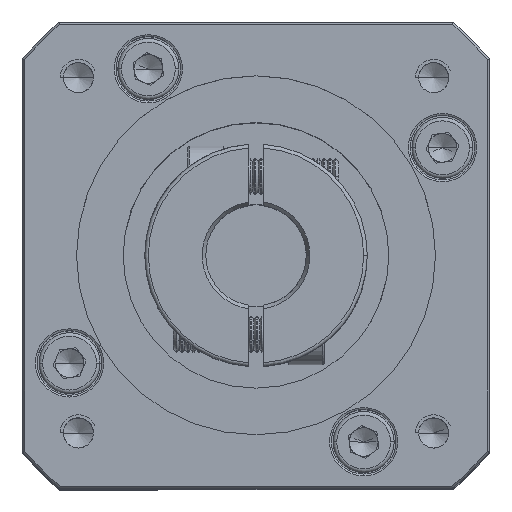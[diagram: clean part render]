
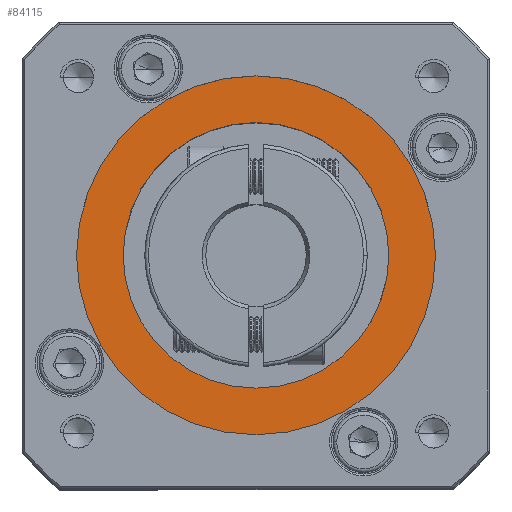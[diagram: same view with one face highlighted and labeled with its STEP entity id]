
A CAD part, top view. The second image highlights one B-rep face of the part: STEP entity #84115.
In plain terms, the highlighted planar face has unit normal (0, 0, 1).
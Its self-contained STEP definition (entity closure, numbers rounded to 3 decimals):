
#5113 = FACE_OUTER_BOUND ( 'NONE', #57799, .T. ) ;
#6997 = CIRCLE ( 'NONE', #34559, 18.5 ) ;
#8098 = EDGE_CURVE ( 'NONE', #102470, #37250, #6997, .T. ) ;
#13736 = CARTESIAN_POINT ( 'NONE',  ( -40.761, 29.91, 0.906 ) ) ;
#14090 = VERTEX_POINT ( 'NONE', #36983 ) ;
#17733 = VERTEX_POINT ( 'NONE', #54439 ) ;
#18972 = CARTESIAN_POINT ( 'NONE',  ( -40.761, 29.91, 0.906 ) ) ;
#22602 = DIRECTION ( 'NONE',  ( 1., 0., 0. ) ) ;
#23038 = CARTESIAN_POINT ( 'NONE',  ( -59.261, 29.91, 0.906 ) ) ;
#30956 = ORIENTED_EDGE ( 'NONE', *, *, #119041, .T. ) ;
#34559 = AXIS2_PLACEMENT_3D ( 'NONE', #103512, #54489, #102687 ) ;
#36070 = CIRCLE ( 'NONE', #71642, 25. ) ;
#36983 = CARTESIAN_POINT ( 'NONE',  ( -65.761, 29.91, 0.906 ) ) ;
#37250 = VERTEX_POINT ( 'NONE', #72403 ) ;
#37949 = EDGE_CURVE ( 'NONE', #14090, #17733, #36070, .T. ) ;
#40283 = AXIS2_PLACEMENT_3D ( 'NONE', #105840, #84513, #104604 ) ;
#48441 = CIRCLE ( 'NONE', #49802, 25. ) ;
#49802 = AXIS2_PLACEMENT_3D ( 'NONE', #18972, #59418, #87113 ) ;
#53520 = EDGE_CURVE ( 'NONE', #37250, #102470, #67989, .T. ) ;
#54439 = CARTESIAN_POINT ( 'NONE',  ( -15.761, 29.91, 0.906 ) ) ;
#54489 = DIRECTION ( 'NONE',  ( 0., 0., -1. ) ) ;
#57799 = EDGE_LOOP ( 'NONE', ( #30956, #106766 ) ) ;
#59418 = DIRECTION ( 'NONE',  ( 0., 0., 1. ) ) ;
#61816 = DIRECTION ( 'NONE',  ( 0., 0., 1. ) ) ;
#63211 = DIRECTION ( 'NONE',  ( 0., 0., 1. ) ) ;
#67989 = CIRCLE ( 'NONE', #40283, 18.5 ) ;
#71642 = AXIS2_PLACEMENT_3D ( 'NONE', #80962, #61816, #22602 ) ;
#72403 = CARTESIAN_POINT ( 'NONE',  ( -22.261, 29.91, 0.906 ) ) ;
#73135 = EDGE_LOOP ( 'NONE', ( #107180, #117429 ) ) ;
#80962 = CARTESIAN_POINT ( 'NONE',  ( -40.761, 29.91, 0.906 ) ) ;
#81489 = PLANE ( 'NONE',  #88643 ) ;
#84115 = ADVANCED_FACE ( 'NONE', ( #5113, #121101 ), #81489, .T. ) ;
#84513 = DIRECTION ( 'NONE',  ( 0., 0., -1. ) ) ;
#87113 = DIRECTION ( 'NONE',  ( 1., 0., 0. ) ) ;
#88643 = AXIS2_PLACEMENT_3D ( 'NONE', #13736, #63211, #92530 ) ;
#92530 = DIRECTION ( 'NONE',  ( 1., 0., 0. ) ) ;
#102470 = VERTEX_POINT ( 'NONE', #23038 ) ;
#102687 = DIRECTION ( 'NONE',  ( 1., 0., 0. ) ) ;
#103512 = CARTESIAN_POINT ( 'NONE',  ( -40.761, 29.91, 0.906 ) ) ;
#104604 = DIRECTION ( 'NONE',  ( 1., 0., 0. ) ) ;
#105840 = CARTESIAN_POINT ( 'NONE',  ( -40.761, 29.91, 0.906 ) ) ;
#106766 = ORIENTED_EDGE ( 'NONE', *, *, #37949, .T. ) ;
#107180 = ORIENTED_EDGE ( 'NONE', *, *, #53520, .T. ) ;
#117429 = ORIENTED_EDGE ( 'NONE', *, *, #8098, .T. ) ;
#119041 = EDGE_CURVE ( 'NONE', #17733, #14090, #48441, .T. ) ;
#121101 = FACE_BOUND ( 'NONE', #73135, .T. ) ;
